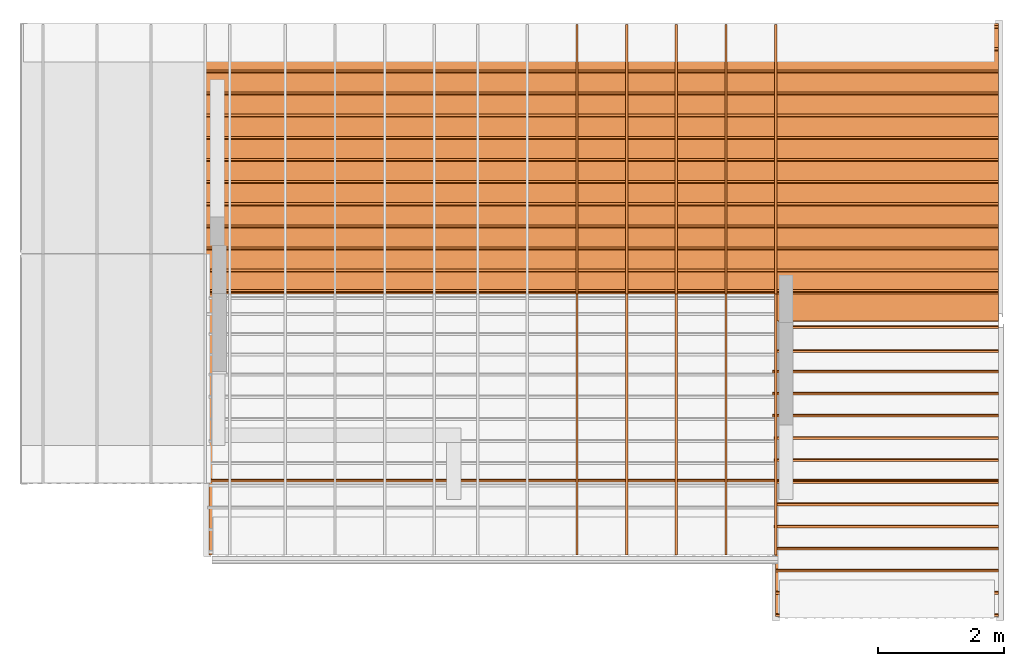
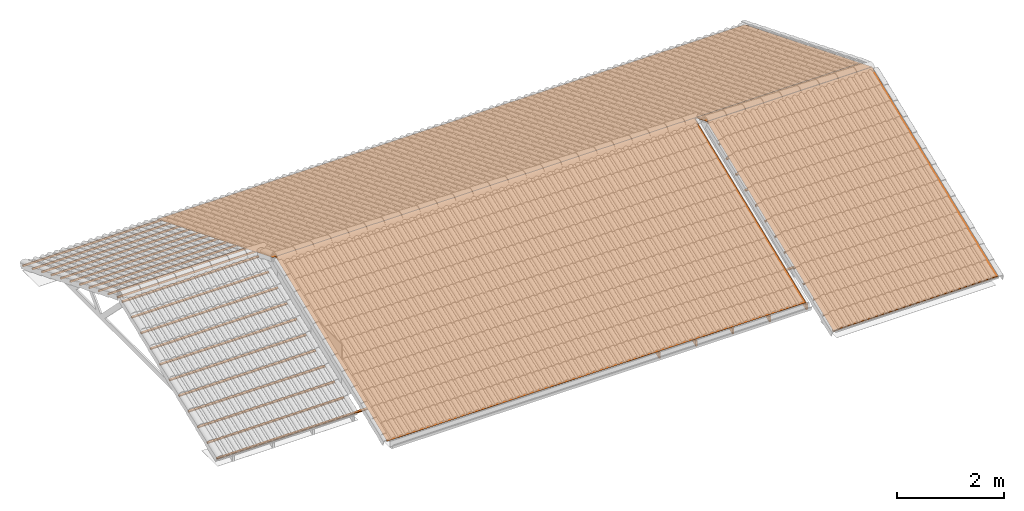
# One storey, part 5 of 5: 10 proxies.
"""IFC2X3 building model written with IfcOpenShell, lengths in millimetres."""

from ifc_helpers import new_model, entity, si_unit, converted_unit, derived_unit, direction, frame, frame_2d, origin, origin_2d_with_axis, place, context, subcontext, project, spatial, polyline, rectangle, outline, extrude, source, transform, mapped, material, type_object, type_shapes, element, save


model = new_model("IFC2X3")

# Units and contexts
model_context = context("Model", 3, precision=0.01, world=origin(), true_north=direction((6.12303176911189e-17, 1.0)))
body_context = subcontext(model_context, "Body", "Model", "MODEL_VIEW")
ifc_project = project(units=[si_unit("LENGTHUNIT", "METRE", prefix="MILLI"), si_unit("AREAUNIT", "SQUARE_METRE"), si_unit("VOLUMEUNIT", "CUBIC_METRE"), converted_unit("PLANEANGLEUNIT", "DEGREE", entity("IfcRatioMeasure", 0.0174532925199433), si_unit("PLANEANGLEUNIT", "RADIAN"), dimensions=[0, 0, 0, 0, 0, 0, 0]), si_unit("MASSUNIT", "GRAM", prefix="KILO"), derived_unit("MASSDENSITYUNIT", [(si_unit("MASSUNIT", "GRAM", prefix="KILO"), 1), (si_unit("LENGTHUNIT", "METRE"), -3)]), si_unit("TIMEUNIT", "SECOND"), si_unit("FREQUENCYUNIT", "HERTZ"), si_unit("THERMODYNAMICTEMPERATUREUNIT", "DEGREE_CELSIUS"), derived_unit("THERMALTRANSMITTANCEUNIT", [(si_unit("MASSUNIT", "GRAM", prefix="KILO"), 1), (si_unit("THERMODYNAMICTEMPERATUREUNIT", "KELVIN"), -1), (si_unit("TIMEUNIT", "SECOND"), -3)]), derived_unit("VOLUMETRICFLOWRATEUNIT", [(si_unit("LENGTHUNIT", "METRE"), 3), (si_unit("TIMEUNIT", "SECOND"), -1)]), si_unit("ELECTRICCURRENTUNIT", "AMPERE"), si_unit("ELECTRICVOLTAGEUNIT", "VOLT"), si_unit("POWERUNIT", "WATT"), si_unit("FORCEUNIT", "NEWTON", prefix="KILO"), si_unit("ILLUMINANCEUNIT", "LUX"), si_unit("LUMINOUSFLUXUNIT", "LUMEN"), si_unit("LUMINOUSINTENSITYUNIT", "CANDELA"), derived_unit("USERDEFINED", [(si_unit("MASSUNIT", "GRAM", prefix="KILO"), -1), (si_unit("LENGTHUNIT", "METRE"), -2), (si_unit("TIMEUNIT", "SECOND"), 3), (si_unit("LUMINOUSFLUXUNIT", "LUMEN"), 1)]), derived_unit("LINEARVELOCITYUNIT", [(si_unit("LENGTHUNIT", "METRE"), 1), (si_unit("TIMEUNIT", "SECOND"), -1)]), si_unit("PRESSUREUNIT", "PASCAL"), derived_unit("USERDEFINED", [(si_unit("LENGTHUNIT", "METRE"), -2), (si_unit("MASSUNIT", "GRAM", prefix="KILO"), 1), (si_unit("TIMEUNIT", "SECOND"), -2)])], contexts=[model_context])

# Site, building, storey
site_placement = place(None, origin())
site = spatial("IfcSite", under=ifc_project, at=site_placement, Name="Surface", CompositionType="ELEMENT")
building_placement = place(site_placement, origin())
building = spatial("IfcBuilding", under=site, at=building_placement, CompositionType="ELEMENT")
storey_placement = place(building_placement, frame((0.0, 0.0, 2765.0)))
storey = spatial("IfcBuildingStorey", under=building, at=storey_placement, Name="U.S.W.P", CompositionType="ELEMENT", Elevation=2765.0)

# Proxies
ifc_material_1 = material(Name="TIMBER 2")
building_element_proxy_type_1 = type_object("IfcBuildingElementProxyType", Name="STRUCTURE", PredefinedType="NOTDEFINED", material=ifc_material_1)
shared_shape_1 = source(origin(), body_context, "Body", "SweptSolid", [
    extrude(outline(polyline([(-4018.80184531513, -1245.65570033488), (-3972.74395265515, -1359.65389872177), (506.410833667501, -1359.66636899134), (3836.52762871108, 1856.17212158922), (3790.46973605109, 1970.17031997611), (3183.76594544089, 1384.28922681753), (-3325.62834590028, -1245.65570033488), (-4018.80184531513, -1245.65570033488)]), holes=[polyline([(-1998.73682413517, -1245.65939449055), (-3021.30908937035, -1245.65654758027), (-2497.4030946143, -1033.98648251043), (-1998.73682413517, -1245.65939449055)]), polyline([(-1386.99133862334, -585.354607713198), (168.591429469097, -1245.66542847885), (-1667.27665290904, -1245.66031729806), (-1386.99133862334, -585.354607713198)]), polyline([(460.352161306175, -1245.66624076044), (-1237.51026854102, -524.960819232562), (1181.05758283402, 452.196189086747), (460.352161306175, -1245.66624076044)]), polyline([(1330.53865291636, 512.589977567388), (1990.84436250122, 232.304663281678), (670.227832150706, -1042.99279052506), (1330.53865291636, 512.589977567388)]), polyline([(2964.85640366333, 1172.89191743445), (2229.2774969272, 462.555581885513), (2440.9504089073, 961.22185236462), (2964.85640366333, 1172.89191743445)]), polyline([(1480.01972299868, 572.983766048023), (2291.46933882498, 900.828063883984), (2049.66667982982, 331.181107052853), (1480.01972299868, 572.983766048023)]), polyline([(-2347.92202453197, -973.592694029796), (-1536.47240870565, -645.748396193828), (-1778.27506770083, -1215.39535302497), (-2347.92202453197, -973.592694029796)])]), frame((-19.0, 39.7999999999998, 449.634346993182), z_axis=(-1.0, 0.0, 0.0), x_axis=(0.0, 0.92718489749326, 0.374604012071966)), (0.0, 0.0, -1.0), 38.0),
])
type_shapes(building_element_proxy_type_1, [shared_shape_1])
for number, where, name in (
    (1, (-3247.87517007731, 7132.59087597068, -213.787643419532), "STRUCTURE:STRUCTURE"),
    (2, (-2457.87517007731, 7132.59087597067, -213.787643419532), "STRUCTURE:STRUCTURE"),
    (3, (-1667.87517007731, 7132.59087597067, -213.787643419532), "STRUCTURE:STRUCTURE"),
    (4, (-877.875170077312, 7132.59087597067, -213.787643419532), "STRUCTURE:STRUCTURE"),
    (5, (-87.8751700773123, 7132.59087597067, -213.787643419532), "STRUCTURE:STRUCTURE"),
):
    element("IfcBuildingElementProxy", number, at=place(storey_placement, frame(where)), inside=storey, type_object=building_element_proxy_type_1, material=ifc_material_1, Name=name, ObjectType="STRUCTURE", context=body_context, shape_type="MappedRepresentation", body=[
        mapped(shared_shape_1, transform((0.0, 0.0, 0.0), scale=1.0)),
    ])
ifc_material_2 = material(Name="TIMBER")
building_element_proxy_type_2 = type_object("IfcBuildingElementProxyType", Name="Generic Models 1", PredefinedType="NOTDEFINED", material=ifc_material_2)
shared_shape_2 = source(origin(), body_context, "Body", "SweptSolid", [
    extrude(rectangle(XDim=37.9999999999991, YDim=37.9999999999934, at=frame_2d((1.03028696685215e-13, 2.52242671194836e-13), x_axis=(0.0, 1.0))), frame((-9758.64843247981, 19562.7948681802, 4872.110695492), z_axis=(1.0, 0.0, 0.0), x_axis=(0.0, 0.927183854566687, 0.374606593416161)), (0.0, 0.0, 1.0), 2938.0),
    extrude(rectangle(XDim=38.0000000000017, YDim=37.999999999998, at=frame_2d((8.01136934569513e-13, -9.09494701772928e-13), x_axis=(0.0, 1.0))), frame((-9758.64843247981, 19210.4650034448, 4729.76018999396), z_axis=(1.0, 0.0, 0.0), x_axis=(0.0, 0.927183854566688, 0.374606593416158)), (0.0, 0.0, 1.0), 2945.0),
    extrude(rectangle(XDim=38.0000000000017, YDim=37.999999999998, at=frame_2d((1.20436993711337e-12, 9.9475983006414e-14), x_axis=(0.0, 1.0))), frame((-9758.64843247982, 18858.1351387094, 4587.40968449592), z_axis=(1.0, 0.0, 0.0), x_axis=(0.0, 0.927183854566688, 0.374606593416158)), (0.0, 0.0, 1.0), 2938.0),
    extrude(rectangle(XDim=38.0000000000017, YDim=37.999999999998, at=frame_2d((1.00364161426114e-12, -4.05009359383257e-13), x_axis=(0.0, 1.0))), frame((-9758.64843247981, 18505.805273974, 4445.05917899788), z_axis=(1.0, 0.0, 0.0), x_axis=(0.0, 0.927183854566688, 0.374606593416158)), (0.0, 0.0, 1.0), 2938.0),
    extrude(rectangle(XDim=38.0000000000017, YDim=37.999999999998, at=frame_2d((1.00364161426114e-12, -4.05009359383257e-13), x_axis=(0.0, 1.0))), frame((-9758.64843247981, 18153.4754092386, 4302.70867349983), z_axis=(1.0, 0.0, 0.0), x_axis=(0.0, 0.927183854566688, 0.374606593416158)), (0.0, 0.0, 1.0), 2938.0),
    extrude(rectangle(XDim=38.0000000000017, YDim=37.999999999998, at=frame_2d((-1.20792265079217e-12, -9.76996261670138e-14), x_axis=(0.0, 1.0))), frame((-9758.64843247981, 17801.1455445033, 4160.35816800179), z_axis=(1.0, 0.0, 0.0), x_axis=(0.0, 0.927183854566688, 0.374606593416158)), (0.0, 0.0, 1.0), 2938.0),
    extrude(rectangle(XDim=38.0000000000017, YDim=37.999999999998, at=frame_2d((8.01136934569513e-13, -9.09494701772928e-13), x_axis=(0.0, 1.0))), frame((-9758.64843247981, 17448.8156797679, 4018.00766250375), z_axis=(1.0, 0.0, 0.0), x_axis=(0.0, 0.927183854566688, 0.374606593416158)), (0.0, 0.0, 1.0), 2938.0),
    extrude(rectangle(XDim=38.0000000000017, YDim=37.999999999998, at=frame_2d((-8.02913291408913e-13, 9.09494701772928e-13), x_axis=(0.0, 1.0))), frame((-9758.64843247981, 17096.4858150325, 3875.65715700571), z_axis=(1.0, 0.0, 0.0), x_axis=(0.0, 0.927183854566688, 0.374606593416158)), (0.0, 0.0, 1.0), 2938.0),
    extrude(rectangle(XDim=38.0000000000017, YDim=37.999999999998, at=frame_2d((1.20436993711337e-12, 9.9475983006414e-14), x_axis=(0.0, 1.0))), frame((-9758.64843247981, 16744.1559502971, 3733.30665150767), z_axis=(1.0, 0.0, 0.0), x_axis=(0.0, 0.927183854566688, 0.374606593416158)), (0.0, 0.0, 1.0), 2938.0),
    extrude(rectangle(XDim=38.0000000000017, YDim=37.999999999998, at=frame_2d((-1.20792265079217e-12, -9.76996261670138e-14), x_axis=(0.0, 1.0))), frame((-9758.64843247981, 16391.8260855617, 3590.95614600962), z_axis=(1.0, 0.0, 0.0), x_axis=(0.0, 0.927183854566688, 0.374606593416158)), (0.0, 0.0, 1.0), 2938.0),
    extrude(rectangle(XDim=38.0000000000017, YDim=37.999999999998, at=frame_2d((-2.02504679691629e-13, -5.04485342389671e-13), x_axis=(0.0, 1.0))), frame((-9758.64843247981, 16039.4962208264, 3448.60564051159), z_axis=(1.0, 0.0, 0.0), x_axis=(0.0, 0.927183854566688, 0.374606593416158)), (0.0, 0.0, 1.0), 15550.0),
    extrude(rectangle(XDim=38.0000000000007, YDim=37.9999999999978, at=origin_2d_with_axis()), frame((-6758.64843247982, 19056.8847517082, 5144.63326652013), z_axis=(1.0, 0.0, 0.0), x_axis=(0.0, 0.374606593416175, 0.927183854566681)), (0.0, 0.0, 1.0), 12550.0),
    extrude(rectangle(XDim=37.9999999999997, YDim=37.9999999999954, at=frame_2d((9.9475983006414e-14, 1.20614629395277e-12), x_axis=(1.0, 0.0))), frame((2291.35156752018, 18674.4121903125, 5299.16221198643), z_axis=(1.0, 0.0, 0.0), x_axis=(0.0, 0.374606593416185, 0.927183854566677)), (0.0, 0.0, 1.0), 3500.0),
    extrude(rectangle(XDim=38.0000000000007, YDim=37.9999999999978, at=origin_2d_with_axis()), frame((-6758.64843247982, 19379.0719197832, 5014.46120099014), z_axis=(1.0, 0.0, 0.0), x_axis=(0.0, 0.374606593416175, 0.927183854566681)), (0.0, 0.0, 1.0), 12550.0),
    extrude(rectangle(XDim=38.0000000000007, YDim=37.9999999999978, at=origin_2d_with_axis()), frame((-9758.64843247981, 19731.4017845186, 4872.110695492), z_axis=(1.0, 0.0, 0.0), x_axis=(0.0, 0.374606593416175, 0.927183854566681)), (0.0, 0.0, 1.0), 15550.0),
    extrude(rectangle(XDim=38.0000000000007, YDim=37.9999999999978, at=origin_2d_with_axis()), frame((-9758.64843247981, 20083.7316492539, 4729.76018999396), z_axis=(1.0, 0.0, 0.0), x_axis=(0.0, 0.374606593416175, 0.927183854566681)), (0.0, 0.0, 1.0), 15550.0),
    extrude(rectangle(XDim=38.0000000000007, YDim=37.9999999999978, at=origin_2d_with_axis()), frame((-9758.64843247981, 20436.0615139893, 4587.40968449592), z_axis=(1.0, 0.0, 0.0), x_axis=(0.0, 0.374606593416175, 0.927183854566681)), (0.0, 0.0, 1.0), 15550.0),
    extrude(rectangle(XDim=38.0000000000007, YDim=37.9999999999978, at=origin_2d_with_axis()), frame((-9758.64843247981, 20788.3913787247, 4445.05917899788), z_axis=(1.0, 0.0, 0.0), x_axis=(0.0, 0.374606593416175, 0.927183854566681)), (0.0, 0.0, 1.0), 15550.0),
    extrude(rectangle(XDim=38.0000000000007, YDim=37.9999999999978, at=origin_2d_with_axis()), frame((-9758.64843247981, 21140.7212434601, 4302.70867349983), z_axis=(1.0, 0.0, 0.0), x_axis=(0.0, 0.374606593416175, 0.927183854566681)), (0.0, 0.0, 1.0), 15550.0),
    extrude(rectangle(XDim=38.0000000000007, YDim=37.9999999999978, at=origin_2d_with_axis()), frame((-9758.64843247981, 21493.0511081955, 4160.35816800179), z_axis=(1.0, 0.0, 0.0), x_axis=(0.0, 0.374606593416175, 0.927183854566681)), (0.0, 0.0, 1.0), 15550.0),
    extrude(rectangle(XDim=38.0000000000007, YDim=37.9999999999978, at=origin_2d_with_axis()), frame((-9758.64843247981, 21845.3809729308, 4018.00766250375), z_axis=(1.0, 0.0, 0.0), x_axis=(0.0, 0.374606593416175, 0.927183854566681)), (0.0, 0.0, 1.0), 15550.0),
    extrude(rectangle(XDim=38.0000000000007, YDim=37.9999999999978, at=origin_2d_with_axis()), frame((-9758.64843247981, 22197.7108376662, 3875.65715700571), z_axis=(1.0, 0.0, 0.0), x_axis=(0.0, 0.374606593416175, 0.927183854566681)), (0.0, 0.0, 1.0), 15550.0),
    extrude(rectangle(XDim=38.0000000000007, YDim=37.9999999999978, at=origin_2d_with_axis()), frame((-9758.64843247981, 22550.0407024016, 3733.30665150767), z_axis=(1.0, 0.0, 0.0), x_axis=(0.0, 0.374606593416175, 0.927183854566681)), (0.0, 0.0, 1.0), 15550.0),
    extrude(rectangle(XDim=38.0000000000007, YDim=37.9999999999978, at=origin_2d_with_axis()), frame((-9758.64843247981, 22902.370567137, 3590.95614600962), z_axis=(1.0, 0.0, 0.0), x_axis=(0.0, 0.374606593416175, 0.927183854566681)), (0.0, 0.0, 1.0), 15550.0),
    extrude(rectangle(XDim=38.0000000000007, YDim=37.9999999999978, at=origin_2d_with_axis()), frame((-9758.64843247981, 23254.7004318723, 3448.60564051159), z_axis=(1.0, 0.0, 0.0), x_axis=(0.0, 0.374606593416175, 0.927183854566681)), (0.0, 0.0, 1.0), 15550.0),
])
type_shapes(building_element_proxy_type_2, [shared_shape_2])
proxy_1_placement = place(storey_placement, frame((-2328.22673759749, -11874.5074503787, -3458.04377136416)))
element("IfcBuildingElementProxy", 6, at=proxy_1_placement, inside=storey, type_object=building_element_proxy_type_2, material=ifc_material_2, Name="Generic Models 1:Generic Models 1", ObjectType="Generic Models 1", context=body_context, shape_type="MappedRepresentation", body=[
    mapped(shared_shape_2, transform((0.0, 0.0, 0.0), scale=1.0)),
])
building_element_proxy_type_3 = type_object("IfcBuildingElementProxyType", Name="Generic Models 1", PredefinedType="NOTDEFINED", material=ifc_material_2)
shared_shape_3 = source(origin(), body_context, "Body", "SweptSolid", [
    extrude(rectangle(XDim=37.9999999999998, YDim=37.9999999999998, at=frame_2d((-1.00364161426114e-12, 4.06785716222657e-13), x_axis=(0.0, 1.0))), frame((2221.35156752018, 18097.3119009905, 5144.63326652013), z_axis=(1.0, 0.0, 0.0), x_axis=(0.0, 0.927183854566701, 0.374606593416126)), (0.0, 0.0, 1.0), 3570.00000000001),
    extrude(rectangle(XDim=38.0000000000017, YDim=37.9999999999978, at=frame_2d((-2.02504679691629e-13, -5.02708985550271e-13), x_axis=(0.0, 1.0))), frame((2291.35156752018, 18479.7844623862, 5299.16221198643), z_axis=(1.0, 0.0, 0.0), x_axis=(0.0, 0.927183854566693, 0.374606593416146)), (0.0, 0.0, 1.0), 3500.0),
    extrude(rectangle(XDim=37.9999999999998, YDim=37.9999999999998, at=frame_2d((1.00364161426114e-12, -4.06785716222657e-13), x_axis=(0.0, 1.0))), frame((2191.35156752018, 17775.1247329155, 5014.46120099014), z_axis=(1.0, 0.0, 0.0), x_axis=(0.0, 0.927183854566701, 0.374606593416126)), (0.0, 0.0, 1.0), 3600.0),
    extrude(rectangle(XDim=38.0000000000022, YDim=37.999999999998, at=frame_2d((-1.01252339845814e-13, -2.52242671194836e-13), x_axis=(0.0, 1.0))), frame((2191.35156752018, 17422.7948681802, 4872.110695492), z_axis=(1.0, 0.0, 0.0), x_axis=(0.0, 0.927183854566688, 0.374606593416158)), (0.0, 0.0, 1.0), 3600.0),
    extrude(rectangle(XDim=38.0000000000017, YDim=37.999999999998, at=frame_2d((0.0, 0.0), x_axis=(0.0, 1.0))), frame((2191.35156752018, 17070.4650034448, 4729.76018999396), z_axis=(1.0, 0.0, 0.0), x_axis=(0.0, 0.927183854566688, 0.374606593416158)), (0.0, 0.0, 1.0), 3600.0),
    extrude(rectangle(XDim=38.0000000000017, YDim=37.999999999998, at=frame_2d((0.0, 0.0), x_axis=(0.0, 1.0))), frame((2211.35156752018, 16718.1351387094, 4587.40968449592), z_axis=(1.0, 0.0, 0.0), x_axis=(0.0, 0.927183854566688, 0.374606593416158)), (0.0, 0.0, 1.0), 3580.0),
    extrude(rectangle(XDim=38.0000000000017, YDim=37.999999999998, at=frame_2d((-2.02504679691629e-13, -5.04485342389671e-13), x_axis=(0.0, 1.0))), frame((2211.35156752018, 16365.805273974, 4445.05917899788), z_axis=(1.0, 0.0, 0.0), x_axis=(0.0, 0.927183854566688, 0.374606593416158)), (0.0, 0.0, 1.0), 3580.0),
    extrude(rectangle(XDim=38.0000000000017, YDim=37.999999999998, at=frame_2d((-2.02504679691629e-13, -5.04485342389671e-13), x_axis=(0.0, 1.0))), frame((2221.35156752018, 16013.4754092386, 4302.70867349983), z_axis=(1.0, 0.0, 0.0), x_axis=(0.0, 0.927183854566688, 0.374606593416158)), (0.0, 0.0, 1.0), 3570.0),
    extrude(rectangle(XDim=38.0000000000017, YDim=37.999999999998, at=frame_2d((0.0, 0.0), x_axis=(0.0, 1.0))), frame((2221.35156752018, 15661.1455445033, 4160.35816800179), z_axis=(1.0, 0.0, 0.0), x_axis=(0.0, 0.927183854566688, 0.374606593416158)), (0.0, 0.0, 1.0), 3570.0),
    extrude(rectangle(XDim=38.0000000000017, YDim=37.999999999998, at=frame_2d((0.0, 0.0), x_axis=(0.0, 1.0))), frame((2211.35156752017, 15308.8156797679, 4018.00766250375), z_axis=(1.0, 0.0, 0.0), x_axis=(0.0, 0.927183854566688, 0.374606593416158)), (0.0, 0.0, 1.0), 3580.0),
    extrude(rectangle(XDim=38.0000000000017, YDim=37.999999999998, at=frame_2d((2.02504679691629e-13, 5.04485342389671e-13), x_axis=(0.0, 1.0))), frame((2221.35156752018, 14956.4858150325, 3875.65715700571), z_axis=(1.0, 0.0, 0.0), x_axis=(0.0, 0.927183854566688, 0.374606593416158)), (0.0, 0.0, 1.0), 3570.0),
    extrude(rectangle(XDim=38.0000000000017, YDim=37.999999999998, at=frame_2d((2.02504679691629e-13, 5.04485342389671e-13), x_axis=(0.0, 1.0))), frame((2240.35156752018, 14604.1559502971, 3733.30665150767), z_axis=(1.0, 0.0, 0.0), x_axis=(0.0, 0.927183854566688, 0.374606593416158)), (0.0, 0.0, 1.0), 3550.99999999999),
    extrude(rectangle(XDim=38.0000000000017, YDim=37.999999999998, at=frame_2d((-2.02504679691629e-13, -5.04485342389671e-13), x_axis=(0.0, 1.0))), frame((2240.35156752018, 14251.8260855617, 3590.95614600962), z_axis=(1.0, 0.0, 0.0), x_axis=(0.0, 0.927183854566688, 0.374606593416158)), (0.0, 0.0, 1.0), 3550.99999999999),
    extrude(rectangle(XDim=38.0000000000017, YDim=37.999999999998, at=frame_2d((-2.02504679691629e-13, -5.04485342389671e-13), x_axis=(0.0, 1.0))), frame((2240.35156752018, 13899.4962208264, 3448.60564051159), z_axis=(1.0, 0.0, 0.0), x_axis=(0.0, 0.927183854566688, 0.374606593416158)), (0.0, 0.0, 1.0), 3550.99999999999),
])
type_shapes(building_element_proxy_type_3, [shared_shape_3])
proxy_2_placement = place(storey_placement, frame((-2328.22673759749, -11874.5074503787, -3458.04377136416)))
element("IfcBuildingElementProxy", 7, at=proxy_2_placement, inside=storey, type_object=building_element_proxy_type_3, material=ifc_material_2, Name="Generic Models 2:Generic Models 1", ObjectType="Generic Models 1", context=body_context, shape_type="MappedRepresentation", body=[
    mapped(shared_shape_3, transform((0.0, 0.0, 0.0), scale=1.0)),
])
building_element_proxy_type_4 = type_object("IfcBuildingElementProxyType", Name="Generic Models 4", PredefinedType="NOTDEFINED")
shared_shape_4 = source(origin(), body_context, "Body", "SweptSolid", [
    extrude(rectangle(XDim=2.00000000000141, YDim=459.999999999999, at=frame_2d((2.01794136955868e-12, 8.03690447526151e-13), x_axis=(0.0, 1.0))), frame((2240.35156752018, 18793.471433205, 5273.80259954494), z_axis=(1.0, 0.0, 0.0), x_axis=(0.0, 0.927183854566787, -0.374606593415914)), (0.0, 0.0, 1.0), 3551.00000000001),
])
type_shapes(building_element_proxy_type_4, [shared_shape_4])
proxy_3_placement = place(storey_placement, frame((-2328.22673759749, -11874.5074503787, -3458.04377136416)))
element("IfcBuildingElementProxy", 8, at=proxy_3_placement, inside=storey, type_object=building_element_proxy_type_4, Name="Generic Models 8:Generic Models 4", ObjectType="Generic Models 4", context=body_context, shape_type="MappedRepresentation", body=[
    mapped(shared_shape_4, transform((0.0, 0.0, 0.0), scale=1.0)),
])
building_element_proxy_type_5 = type_object("IfcBuildingElementProxyType", Name="Generic Models 4", PredefinedType="NOTDEFINED")
shared_shape_5 = source(origin(), body_context, "Body", "SweptSolid", [
    extrude(rectangle(XDim=2.00000000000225, YDim=4645.0, at=frame_2d((-9.09494701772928e-13, -8.79851747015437e-13), x_axis=(0.0, 1.0))), frame((-6838.64843247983, 21160.1082219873, 4317.6192698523), z_axis=(1.0, 0.0, 0.0), x_axis=(0.0, 0.927183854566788, -0.374606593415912)), (0.0, 0.0, 1.0), 12630.0),
])
type_shapes(building_element_proxy_type_5, [shared_shape_5])
proxy_4_placement = place(storey_placement, frame((-2328.22673759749, -11874.2783364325, -3457.47669444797)))
element("IfcBuildingElementProxy", 9, at=proxy_4_placement, inside=storey, type_object=building_element_proxy_type_5, Name="Generic Models 6:Generic Models 4", ObjectType="Generic Models 4", context=body_context, shape_type="MappedRepresentation", body=[
    mapped(shared_shape_5, transform((0.0, 0.0, 0.0), scale=1.0)),
])
building_element_proxy_type_6 = type_object("IfcBuildingElementProxyType", Name="Generic Models 4", PredefinedType="NOTDEFINED")
shared_shape_6 = source(origin(), body_context, "Body", "SweptSolid", [
    extrude(rectangle(XDim=1.99999999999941, YDim=5070.0, at=frame_2d((-1.13686837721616e-12, 4.06064071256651e-13), x_axis=(0.0, 1.0))), frame((2240.35156752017, 16225.5478802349, 4407.80513892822), z_axis=(1.0, 0.0, 0.0), x_axis=(0.0, -0.927183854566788, -0.374606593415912)), (0.0, 0.0, 1.0), 3551.00000000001),
    extrude(rectangle(XDim=2.00000000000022, YDim=4480.0, at=frame_2d((1.13686837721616e-12, -4.0600856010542e-13), x_axis=(0.0, 1.0))), frame((-6778.64843247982, 16930.5810987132, 4348.52431380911), z_axis=(1.0, 0.0, 0.0), x_axis=(0.0, -0.927183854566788, -0.374606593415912)), (0.0, 0.0, 1.0), 8999.99999999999),
])
type_shapes(building_element_proxy_type_6, [shared_shape_6])
proxy_5_placement = place(storey_placement, frame((-2328.22673759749, -11874.5074503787, -3456.00031691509)))
element("IfcBuildingElementProxy", 10, at=proxy_5_placement, inside=storey, type_object=building_element_proxy_type_6, Name="Generic Models 5:Generic Models 4", ObjectType="Generic Models 4", context=body_context, shape_type="MappedRepresentation", body=[
    mapped(shared_shape_6, transform((0.0, 0.0, 0.0), scale=1.0)),
])

save(model, "model.ifc")
